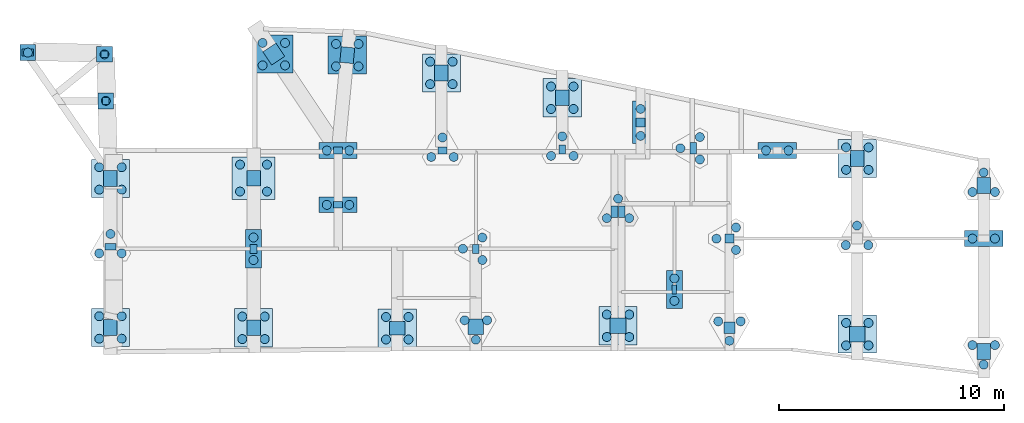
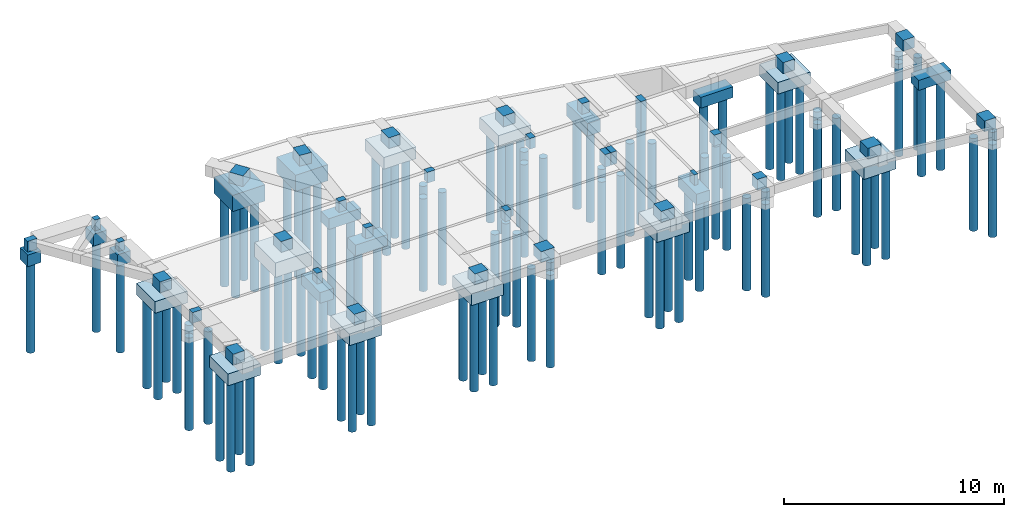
# One storey, part 1 of 5: 101 piles, 32 columns, 22 footings.
"""IFC4 building model written with IfcOpenShell, lengths in centimetres."""

from ifc_helpers import new_model, si_unit, derived_unit, frame, origin, origin_with_axes, origin_2d_with_axis, place, context, project, spatial, rectangle, circle, extrude, faceted_brep, material, element, save


model = new_model("IFC4")

# Units and contexts
model_context = context("Model", 3, precision=1e-05, world=origin_with_axes(), identifier="Body")
ifc_project = project(units=[si_unit("LENGTHUNIT", "METRE", prefix="CENTI"), si_unit("VOLUMEUNIT", "CUBIC_METRE"), si_unit("AREAUNIT", "SQUARE_METRE"), si_unit("POWERUNIT", "WATT"), si_unit("LUMINOUSFLUXUNIT", "LUMEN"), si_unit("ELECTRICCURRENTUNIT", "AMPERE"), si_unit("PRESSUREUNIT", "PASCAL", prefix="KILO"), si_unit("MASSUNIT", "GRAM", prefix="KILO"), si_unit("PLANEANGLEUNIT", "RADIAN"), derived_unit("VOLUMETRICFLOWRATEUNIT", [(si_unit("LENGTHUNIT", "METRE"), 3), (si_unit("TIMEUNIT", "SECOND"), -1)])], contexts=[model_context])

# Site, building, storey
site_placement = place(None, origin_with_axes())
site = spatial("IfcSite", under=ifc_project, at=site_placement)
building_placement = place(site_placement, origin())
building = spatial("IfcBuilding", under=site, at=building_placement)
storey_placement = place(building_placement, origin_with_axes())
storey = spatial("IfcBuildingStorey", under=building, at=storey_placement, Name="PÁTIO", CompositionType="ELEMENT", Elevation=0.0)

# Footings
ifc_material = material(Name="Concreto")
footing_1_placement = place(storey_placement, frame((1120.00955496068, -21.71839427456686, -60.0), z_axis=(0.0, 0.0, 1.0), x_axis=(1.0, 0.0, 0.0)))
element("IfcFooting", 1, at=footing_1_placement, inside=storey, material=ifc_material, Name="P.A1", context=model_context, shape_type="SolidModel", body=[
    faceted_brep([(85.0, 85.0, -90.0), (85.0, -85.0, -90.0), (-85.0, -85.0, -90.0), (-85.0, 85.0, -90.0), (-85.0, 85.0, 0.0), (-85.0, -85.0, 0.0), (85.0, -85.0, 0.0), (85.0, 85.0, 0.0)], [[[0, 1, 2, 3]], [[4, 5, 6, 7]], [[4, 3, 5]], [[3, 2, 5]], [[5, 2, 6]], [[2, 1, 6]], [[6, 1, 7]], [[1, 0, 7]], [[7, 0, 4]], [[0, 3, 4]]]),
])
for number, where, z_axis, x_axis, name in (
    (2, (392.75, -1238.82, -60.0), (0.0, 0.0, 1.0), (1.0, 0.0, 0.0), "P.A10"),
    (3, (1029.7, -1240.32, -60.0), (0.0, 0.0, 1.0), (1.0, 0.0, 0.0), "P.A11"),
):
    element("IfcFooting", number, at=place(storey_placement, frame(where, z_axis=z_axis, x_axis=x_axis)), inside=storey, material=ifc_material, Name=name, context=model_context, shape_type="SolidModel", body=[
        faceted_brep([(85.0, -85.0, -65.0), (-85.0, -85.0, -65.0), (-85.0, 85.0, -65.0), (85.0, 85.0, -65.0), (85.0, 85.0, 0.0), (-85.0, 85.0, 0.0), (-85.0, -85.0, 0.0), (85.0, -85.0, 0.0)], [[[0, 1, 2, 3]], [[4, 5, 6, 7]], [[4, 3, 5]], [[3, 2, 5]], [[5, 2, 6]], [[2, 1, 6]], [[6, 1, 7]], [[1, 0, 7]], [[7, 0, 4]], [[0, 3, 4]]]),
    ])
footing_2_placement = place(storey_placement, frame((1669.6, -1242.19, -60.0), z_axis=(0.0, 0.0, 1.0), x_axis=(1.0, 0.0, 0.0)))
element("IfcFooting", 4, at=footing_2_placement, inside=storey, material=ifc_material, Name="P.A12", context=model_context, shape_type="SolidModel", body=[
    faceted_brep([(85.0, 85.0, -65.0), (85.0, -85.0, -65.0), (-85.0, -85.0, -65.0), (-85.0, 85.0, -65.0), (-85.0, 85.0, 0.0), (-85.0, -85.0, 0.0), (85.0, -85.0, 0.0), (85.0, 85.0, 0.0)], [[[0, 1, 2, 3]], [[4, 5, 6, 7]], [[4, 3, 5]], [[3, 2, 5]], [[5, 2, 6]], [[2, 1, 6]], [[6, 1, 7]], [[1, 0, 7]], [[7, 0, 4]], [[0, 3, 4]]]),
])
footing_3_placement = place(storey_placement, frame((2652.6, -1231.16, -60.0), z_axis=(0.0, 0.0, 1.0), x_axis=(1.0, 0.0, 0.0)))
element("IfcFooting", 5, at=footing_3_placement, inside=storey, material=ifc_material, Name="P.A14", context=model_context, shape_type="SolidModel", body=[
    faceted_brep([(-85.0, 85.0, -65.0), (85.0, 85.0, -65.0), (85.0, -85.0, -65.0), (-85.0, -85.0, -65.0), (-85.0, -85.0, 0.0), (85.0, -85.0, 0.0), (85.0, 85.0, 0.0), (-85.0, 85.0, 0.0)], [[[0, 1, 2, 3]], [[4, 5, 6, 7]], [[4, 3, 5]], [[3, 2, 5]], [[5, 2, 6]], [[2, 1, 6]], [[6, 1, 7]], [[1, 0, 7]], [[7, 0, 4]], [[0, 3, 4]]]),
])
footing_4_placement = place(storey_placement, frame((3717.85, -1268.38, -60.0), z_axis=(0.0, 0.0, 1.0), x_axis=(1.0, 0.0, 0.0)))
element("IfcFooting", 6, at=footing_4_placement, inside=storey, material=ifc_material, Name="P.A16", context=model_context, shape_type="SolidModel", body=[
    faceted_brep([(85.0, -85.0, -65.0), (-85.0, -85.0, -65.0), (-85.0, 85.0, -65.0), (85.0, 85.0, -65.0), (85.0, 85.0, 0.0), (-85.0, 85.0, 0.0), (-85.0, -85.0, 0.0), (85.0, -85.0, 0.0)], [[[0, 1, 2, 3]], [[4, 5, 6, 7]], [[4, 3, 5]], [[3, 2, 5]], [[5, 2, 6]], [[2, 1, 6]], [[6, 1, 7]], [[1, 0, 7]], [[7, 0, 4]], [[0, 3, 4]]]),
])
footing_5_placement = place(storey_placement, frame((1447.0753986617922, -26.188866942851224, -60.0), z_axis=(0.0, 0.0, 1.0), x_axis=(1.0, 0.0, 0.0)))
element("IfcFooting", 7, at=footing_5_placement, inside=storey, material=ifc_material, Name="P.A2", context=model_context, shape_type="SolidModel", body=[
    faceted_brep([(-85.0, 85.0, -90.0), (85.0, 85.0, -90.0), (85.0, -85.0, -90.0), (-85.0, -85.0, -90.0), (-85.0, -85.0, 0.0), (85.0, -85.0, 0.0), (85.0, 85.0, 0.0), (-85.0, 85.0, 0.0)], [[[0, 1, 2, 3]], [[4, 5, 6, 7]], [[4, 3, 5]], [[3, 2, 5]], [[5, 2, 6]], [[2, 1, 6]], [[6, 1, 7]], [[1, 0, 7]], [[7, 0, 4]], [[0, 3, 4]]]),
])
footing_6_placement = place(storey_placement, frame((1866.0, -105.42, -60.0), z_axis=(0.0, 0.0, 1.0), x_axis=(1.0, 0.0, 0.0)))
element("IfcFooting", 8, at=footing_6_placement, inside=storey, material=ifc_material, Name="P.A3", context=model_context, shape_type="SolidModel", body=[
    faceted_brep([(85.0, 85.0, -65.0), (85.0, -85.0, -65.0), (-85.0, -85.0, -65.0), (-85.0, 85.0, -65.0), (-85.0, 85.0, 0.0), (-85.0, -85.0, 0.0), (85.0, -85.0, 0.0), (85.0, 85.0, 0.0)], [[[0, 1, 2, 3]], [[4, 5, 6, 7]], [[4, 3, 5]], [[3, 2, 5]], [[5, 2, 6]], [[2, 1, 6]], [[6, 1, 7]], [[1, 0, 7]], [[7, 0, 4]], [[0, 3, 4]]]),
])
footing_7_placement = place(storey_placement, frame((2404.5, -216.15, -60.0), z_axis=(0.0, 0.0, 1.0), x_axis=(1.0, 0.0, 0.0)))
element("IfcFooting", 9, at=footing_7_placement, inside=storey, material=ifc_material, Name="P.A4", context=model_context, shape_type="SolidModel", body=[
    faceted_brep([(-85.0, 85.0, -65.0), (85.0, 85.0, -65.0), (85.0, -85.0, -65.0), (-85.0, -85.0, -65.0), (-85.0, -85.0, 0.0), (85.0, -85.0, 0.0), (85.0, 85.0, 0.0), (-85.0, 85.0, 0.0)], [[[0, 1, 2, 3]], [[4, 5, 6, 7]], [[4, 3, 5]], [[3, 2, 5]], [[5, 2, 6]], [[2, 1, 6]], [[6, 1, 7]], [[1, 0, 7]], [[7, 0, 4]], [[0, 3, 4]]]),
])
footing_8_placement = place(storey_placement, frame((2753.0, -325.69, -60.0), z_axis=(0.0, 0.0, 1.0), x_axis=(1.0, 0.0, 0.0)))
element("IfcFooting", 10, at=footing_8_placement, inside=storey, material=ifc_material, Name="P.A5", context=model_context, shape_type="SolidModel", body=[
    faceted_brep([(-35.0, 95.0, -70.0), (35.0, 95.0, -70.0), (35.0, -95.0, -70.0), (-35.0, -95.0, -70.0), (-35.0, -95.0, 0.0), (35.0, -95.0, 0.0), (35.0, 95.0, 0.0), (-35.0, 95.0, 0.0)], [[[0, 1, 2, 3]], [[4, 5, 6, 7]], [[4, 3, 5]], [[3, 2, 5]], [[5, 2, 6]], [[2, 1, 6]], [[6, 1, 7]], [[1, 0, 7]], [[7, 0, 4]], [[0, 3, 4]]]),
])
for number, where, z_axis, x_axis, name in (
    (11, (3717.85, -486.9, -60.0), (0.0, 0.0, 1.0), (1.0, 0.0, 0.0), "P.A6"),
    (12, (392.75, -575.3, -60.0), (0.0, 0.0, 1.0), (1.0, 0.0, 0.0), "P.A7"),
):
    element("IfcFooting", number, at=place(storey_placement, frame(where, z_axis=z_axis, x_axis=x_axis)), inside=storey, material=ifc_material, Name=name, context=model_context, shape_type="SolidModel", body=[
        faceted_brep([(-85.0, 85.0, -65.0), (85.0, 85.0, -65.0), (85.0, -85.0, -65.0), (-85.0, -85.0, -65.0), (-85.0, -85.0, 0.0), (85.0, -85.0, 0.0), (85.0, 85.0, 0.0), (-85.0, 85.0, 0.0)], [[[0, 1, 2, 3]], [[4, 5, 6, 7]], [[4, 3, 5]], [[3, 2, 5]], [[5, 2, 6]], [[2, 1, 6]], [[6, 1, 7]], [[1, 0, 7]], [[7, 0, 4]], [[0, 3, 4]]]),
    ])
footing_9_placement = place(storey_placement, frame((1029.7, -573.8, -60.0), z_axis=(0.0, 0.0, 1.0), x_axis=(1.0, 0.0, 0.0)))
element("IfcFooting", 13, at=footing_9_placement, inside=storey, material=ifc_material, Name="P.A8", context=model_context, shape_type="SolidModel", body=[
    faceted_brep([(-95.0, 95.0, -80.0), (95.0, 95.0, -80.0), (95.0, -95.0, -80.0), (-95.0, -95.0, -80.0), (-95.0, -95.0, 0.0), (95.0, -95.0, 0.0), (95.0, 95.0, 0.0), (-95.0, 95.0, 0.0)], [[[0, 1, 2, 3]], [[4, 5, 6, 7]], [[4, 3, 5]], [[3, 2, 5]], [[5, 2, 6]], [[2, 1, 6]], [[6, 1, 7]], [[1, 0, 7]], [[7, 0, 4]], [[0, 3, 4]]]),
])
footing_10_placement = place(storey_placement, frame((25.0, -15.0, -60.0), z_axis=(0.0, 0.0, 1.0), x_axis=(1.0, 0.0, 0.0)))
element("IfcFooting", 14, at=footing_10_placement, inside=storey, material=ifc_material, Name="P.MURO1", context=model_context, shape_type="SolidModel", body=[
    faceted_brep([(35.0, 35.0, -65.0), (35.0, -35.0, -65.0), (-35.0, -35.0, -65.0), (-35.0, 35.0, -65.0), (-35.0, 35.0, 0.0), (-35.0, -35.0, 0.0), (35.0, -35.0, 0.0), (35.0, 35.0, 0.0)], [[[0, 1, 2, 3]], [[4, 5, 6, 7]], [[4, 3, 5]], [[3, 2, 5]], [[5, 2, 6]], [[2, 1, 6]], [[6, 1, 7]], [[1, 0, 7]], [[7, 0, 4]], [[0, 3, 4]]]),
])
footing_11_placement = place(storey_placement, frame((365.95, -22.8, -60.0), z_axis=(0.0, 0.0, 1.0), x_axis=(1.0, 0.0, 0.0)))
element("IfcFooting", 15, at=footing_11_placement, inside=storey, material=ifc_material, Name="P.MURO2", context=model_context, shape_type="SolidModel", body=[
    faceted_brep([(-35.0, 35.0, -65.0), (35.0, 35.0, -65.0), (35.0, -35.0, -65.0), (-35.0, -35.0, -65.0), (-35.0, -35.0, 0.0), (35.0, -35.0, 0.0), (35.0, 35.0, 0.0), (-35.0, 35.0, 0.0)], [[[0, 1, 2, 3]], [[4, 5, 6, 7]], [[4, 3, 5]], [[3, 2, 5]], [[5, 2, 6]], [[2, 1, 6]], [[6, 1, 7]], [[1, 0, 7]], [[7, 0, 4]], [[0, 3, 4]]]),
])
footing_12_placement = place(storey_placement, frame((372.23, -229.98, -50.0), z_axis=(0.0, 0.0, 1.0), x_axis=(1.0, 0.0, 0.0)))
element("IfcFooting", 16, at=footing_12_placement, inside=storey, material=ifc_material, Name="P.MURO5", context=model_context, shape_type="SolidModel", body=[
    faceted_brep([(35.0, -35.0, -65.0), (-35.0, -35.0, -65.0), (-35.0, 35.0, -65.0), (35.0, 35.0, -65.0), (35.0, 35.0, 0.0), (-35.0, 35.0, 0.0), (-35.0, -35.0, 0.0), (35.0, -35.0, 0.0)], [[[0, 1, 2, 3]], [[4, 5, 6, 7]], [[4, 3, 5]], [[3, 2, 5]], [[5, 2, 6]], [[2, 1, 6]], [[6, 1, 7]], [[1, 0, 7]], [[7, 0, 4]], [[0, 3, 4]]]),
])
for number, where, z_axis, x_axis, name in (
    (17, (1406.0, -450.9, -60.0), (0.0, 0.0, 1.0), (1.0, 0.0, 0.0), "P10"),
    (18, (3361.6, -450.9, -70.0), (0.0, 0.0, 1.0), (1.0, 0.0, 0.0), "P15"),
):
    element("IfcFooting", number, at=place(storey_placement, frame(where, z_axis=z_axis, x_axis=x_axis)), inside=storey, material=ifc_material, Name=name, context=model_context, shape_type="SolidModel", body=[
        faceted_brep([(85.0, 35.0, -60.0), (85.0, -35.0, -60.0), (-85.0, -35.0, -60.0), (-85.0, 35.0, -60.0), (-85.0, 35.0, 0.0), (-85.0, -35.0, 0.0), (85.0, -35.0, 0.0), (85.0, 35.0, 0.0)], [[[0, 1, 2, 3]], [[4, 5, 6, 7]], [[4, 3, 5]], [[3, 2, 5]], [[5, 2, 6]], [[2, 1, 6]], [[6, 1, 7]], [[1, 0, 7]], [[7, 0, 4]], [[0, 3, 4]]]),
    ])
footing_13_placement = place(storey_placement, frame((1406.0, -692.9, -60.0), z_axis=(0.0, 0.0, 1.0), x_axis=(1.0, 0.0, 0.0)))
element("IfcFooting", 19, at=footing_13_placement, inside=storey, material=ifc_material, Name="P18", context=model_context, shape_type="SolidModel", body=[
    faceted_brep([(-85.0, -35.0, -60.0), (-85.0, 35.0, -60.0), (85.0, 35.0, -60.0), (85.0, -35.0, -60.0), (85.0, -35.0, 0.0), (85.0, 35.0, 0.0), (-85.0, 35.0, 0.0), (-85.0, -35.0, 0.0)], [[[0, 1, 2, 3]], [[4, 5, 6, 7]], [[4, 3, 5]], [[3, 2, 5]], [[5, 2, 6]], [[2, 1, 6]], [[6, 1, 7]], [[1, 0, 7]], [[7, 0, 4]], [[0, 3, 4]]]),
])
footing_14_placement = place(storey_placement, frame((1029.5, -888.4, -60.0), z_axis=(0.0, 0.0, 1.0), x_axis=(1.0, 0.0, 0.0)))
element("IfcFooting", 20, at=footing_14_placement, inside=storey, material=ifc_material, Name="P22", context=model_context, shape_type="SolidModel", body=[
    faceted_brep([(-34.703081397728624, 85.12165495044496, -60.0), (35.29649213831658, 84.87730935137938, -60.0), (34.70308139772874, -85.12165495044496, -60.0), (-35.296492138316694, -84.87730935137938, -60.0), (-35.296492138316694, -84.87730935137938, 0.0), (34.70308139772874, -85.12165495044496, 0.0), (35.29649213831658, 84.87730935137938, 0.0), (-34.703081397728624, 85.12165495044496, 0.0)], [[[0, 1, 2, 3]], [[4, 5, 6, 7]], [[4, 3, 5]], [[3, 2, 5]], [[5, 2, 6]], [[2, 1, 6]], [[6, 1, 7]], [[1, 0, 7]], [[7, 0, 4]], [[0, 3, 4]]]),
])
footing_15_placement = place(storey_placement, frame((4280.6, -843.1, -60.0), z_axis=(0.0, 0.0, 1.0), x_axis=(1.0, 0.0, 0.0)))
element("IfcFooting", 21, at=footing_15_placement, inside=storey, material=ifc_material, Name="P26", context=model_context, shape_type="SolidModel", body=[
    faceted_brep([(85.0, 35.0, -55.0), (85.0, -35.0, -55.0), (-85.0, -35.0, -55.0), (-85.0, 35.0, -55.0), (-85.0, 35.0, 0.0), (-85.0, -35.0, 0.0), (85.0, -35.0, 0.0), (85.0, 35.0, 0.0)], [[[0, 1, 2, 3]], [[4, 5, 6, 7]], [[4, 3, 5]], [[3, 2, 5]], [[5, 2, 6]], [[2, 1, 6]], [[6, 1, 7]], [[1, 0, 7]], [[7, 0, 4]], [[0, 3, 4]]]),
])
footing_16_placement = place(storey_placement, frame((2903.6, -1070.1, -60.0), z_axis=(0.0, 0.0, 1.0), x_axis=(1.0, 0.0, 0.0)))
element("IfcFooting", 22, at=footing_16_placement, inside=storey, material=ifc_material, Name="P27", context=model_context, shape_type="SolidModel", body=[
    faceted_brep([(35.0, -85.0, -60.0), (-35.0, -85.0, -60.0), (-35.0, 85.0, -60.0), (35.0, 85.0, -60.0), (35.0, 85.0, 0.0), (-35.0, 85.0, 0.0), (-35.0, -85.0, 0.0), (35.0, -85.0, 0.0)], [[[0, 1, 2, 3]], [[4, 5, 6, 7]], [[4, 3, 5]], [[3, 2, 5]], [[5, 2, 6]], [[2, 1, 6]], [[6, 1, 7]], [[1, 0, 7]], [[7, 0, 4]], [[0, 3, 4]]]),
])

# Piles
for number, where, z_axis, x_axis, name in (
    (23, (1070.00955496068, 28.28160572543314, -135.0), (0.0, 0.0, 1.0), (1.0, 0.0, 0.0), "E.A1-1"),
    (24, (1170.00955496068, 28.281605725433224, -135.0), (0.0, 0.0, 1.0), (1.0, 0.0, 0.0), "E.A1-2"),
    (25, (1070.00955496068, -71.71839427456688, -135.0), (0.0, 0.0, 1.0), (1.0, 0.0, 0.0), "E.A1-3"),
    (26, (1170.00955496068, -71.71839427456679, -135.0), (0.0, 0.0, 1.0), (1.0, 0.0, 0.0), "E.A1-4"),
    (27, (342.75, -1188.82, -110.0), (0.0, 0.0, 1.0), (1.0, 0.0, 0.0), "E.A10-1"),
    (28, (442.75, -1188.82, -110.0), (0.0, 0.0, 1.0), (1.0, 0.0, 0.0), "E.A10-2"),
    (29, (342.75, -1288.82, -110.0), (0.0, 0.0, 1.0), (1.0, 0.0, 0.0), "E.A10-3"),
    (30, (442.75, -1288.82, -110.0), (0.0, 0.0, 1.0), (1.0, 0.0, 0.0), "E.A10-4"),
    (31, (979.7, -1190.32, -110.0), (0.0, 0.0, 1.0), (1.0, 0.0, 0.0), "E.A11-1"),
    (32, (1079.7, -1190.32, -110.0), (0.0, 0.0, 1.0), (1.0, 0.0, 0.0), "E.A11-2"),
    (33, (979.7, -1290.32, -110.0), (0.0, 0.0, 1.0), (1.0, 0.0, 0.0), "E.A11-3"),
    (34, (1079.7, -1290.32, -110.0), (0.0, 0.0, 1.0), (1.0, 0.0, 0.0), "E.A11-4"),
    (35, (1619.6, -1192.19, -110.0), (0.0, 0.0, 1.0), (1.0, 0.0, 0.0), "E.A12-1"),
    (36, (1719.6, -1192.19, -110.0), (0.0, 0.0, 1.0), (1.0, 0.0, 0.0), "E.A12-2"),
    (37, (1619.6, -1292.19, -110.0), (0.0, 0.0, 1.0), (1.0, 0.0, 0.0), "E.A12-3"),
    (38, (1719.6, -1292.19, -110.0), (0.0, 0.0, 1.0), (1.0, 0.0, 0.0), "E.A12-4"),
    (39, (1969.6, -1206.8124865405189, -115.0), (0.0, 0.0, 1.0), (1.0, 0.0, 0.0), "E.A13-1"),
    (40, (2069.6, -1206.8124865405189, -115.0), (0.0, 0.0, 1.0), (1.0, 0.0, 0.0), "E.A13-2"),
    (41, (2019.6, -1293.4150269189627, -115.0), (0.0, 0.0, 1.0), (1.0, 0.0, 0.0), "E.A13-3"),
    (42, (2602.6, -1181.16, -110.0), (0.0, 0.0, 1.0), (1.0, 0.0, 0.0), "E.A14-1"),
    (43, (2702.6, -1181.16, -110.0), (0.0, 0.0, 1.0), (1.0, 0.0, 0.0), "E.A14-2"),
    (44, (2602.6, -1281.16, -110.0), (0.0, 0.0, 1.0), (1.0, 0.0, 0.0), "E.A14-3"),
    (45, (2702.6, -1281.16, -110.0), (0.0, 0.0, 1.0), (1.0, 0.0, 0.0), "E.A14-4"),
    (46, (3098.6, -1211.5024865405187, -115.0), (0.0, 0.0, 1.0), (1.0, 0.0, 0.0), "E.A15-1"),
    (47, (3198.6, -1211.5024865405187, -115.0), (0.0, 0.0, 1.0), (1.0, 0.0, 0.0), "E.A15-2"),
    (48, (3148.6, -1298.1050269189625, -115.0), (0.0, 0.0, 1.0), (1.0, 0.0, 0.0), "E.A15-3"),
    (49, (3667.85, -1218.38, -110.0), (0.0, 0.0, 1.0), (1.0, 0.0, 0.0), "E.A16-1"),
    (50, (3767.85, -1218.38, -110.0), (0.0, 0.0, 1.0), (1.0, 0.0, 0.0), "E.A16-2"),
    (51, (3667.85, -1318.38, -110.0), (0.0, 0.0, 1.0), (1.0, 0.0, 0.0), "E.A16-3"),
    (52, (3767.85, -1318.38, -110.0), (0.0, 0.0, 1.0), (1.0, 0.0, 0.0), "E.A16-4"),
    (53, (4230.6, -1317.3524865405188, -115.0), (0.0, 0.0, 1.0), (1.0, 0.0, 0.0), "E.A17-1"),
    (54, (4330.6, -1317.3524865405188, -115.0), (0.0, 0.0, 1.0), (1.0, 0.0, 0.0), "E.A17-2"),
    (55, (4280.6, -1403.9550269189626, -115.0), (0.0, 0.0, 1.0), (1.0, 0.0, 0.0), "E.A17-3"),
    (56, (1397.0753986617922, 23.811133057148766, -135.0), (0.0, 0.0, 1.0), (1.0, 0.0, 0.0), "E.A2-1"),
    (57, (1497.0753986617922, 23.81113305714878, -135.0), (0.0, 0.0, 1.0), (1.0, 0.0, 0.0), "E.A2-2"),
    (58, (1397.0753986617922, -76.18886694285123, -135.0), (0.0, 0.0, 1.0), (1.0, 0.0, 0.0), "E.A2-3"),
    (59, (1497.0753986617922, -76.18886694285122, -135.0), (0.0, 0.0, 1.0), (1.0, 0.0, 0.0), "E.A2-4"),
    (60, (1816.0, -55.42, -110.0), (0.0, 0.0, 1.0), (1.0, 0.0, 0.0), "E.A3-1"),
    (61, (1916.0, -55.42, -110.0), (0.0, 0.0, 1.0), (1.0, 0.0, 0.0), "E.A3-2"),
    (62, (1816.0, -155.42, -110.0), (0.0, 0.0, 1.0), (1.0, 0.0, 0.0), "E.A3-3"),
    (63, (1916.0, -155.42, -110.0), (0.0, 0.0, 1.0), (1.0, 0.0, 0.0), "E.A3-4"),
    (64, (2354.5, -166.15, -110.0), (0.0, 0.0, 1.0), (1.0, 0.0, 0.0), "E.A4-1"),
    (65, (2454.5, -166.15, -110.0), (0.0, 0.0, 1.0), (1.0, 0.0, 0.0), "E.A4-2"),
    (66, (2354.5, -266.15, -110.0), (0.0, 0.0, 1.0), (1.0, 0.0, 0.0), "E.A4-3"),
    (67, (2454.5, -266.15, -110.0), (0.0, 0.0, 1.0), (1.0, 0.0, 0.0), "E.A4-4"),
    (68, (2753.0, -265.69, -115.0), (0.0, 0.0, 1.0), (1.0, 0.0, 0.0), "E.A5-1"),
    (69, (2753.0, -385.69, -115.0), (0.0, 0.0, 1.0), (1.0, 0.0, 0.0), "E.A5-2"),
    (70, (3667.85, -436.9, -110.0), (0.0, 0.0, 1.0), (1.0, 0.0, 0.0), "E.A6-1"),
    (71, (3767.85, -436.9, -110.0), (0.0, 0.0, 1.0), (1.0, 0.0, 0.0), "E.A6-2"),
    (72, (3667.85, -536.9, -110.0), (0.0, 0.0, 1.0), (1.0, 0.0, 0.0), "E.A6-3"),
    (73, (3767.85, -536.9, -110.0), (0.0, 0.0, 1.0), (1.0, 0.0, 0.0), "E.A6-4"),
    (74, (342.75, -525.3, -110.0), (0.0, 0.0, 1.0), (1.0, 0.0, 0.0), "E.A7-1"),
    (75, (442.75, -525.3, -110.0), (0.0, 0.0, 1.0), (1.0, 0.0, 0.0), "E.A7-2"),
    (76, (342.75, -625.3, -110.0), (0.0, 0.0, 1.0), (1.0, 0.0, 0.0), "E.A7-3"),
    (77, (442.75, -625.3, -110.0), (0.0, 0.0, 1.0), (1.0, 0.0, 0.0), "E.A7-4"),
    (78, (969.7, -513.8, -125.0), (0.0, 0.0, 1.0), (1.0, 0.0, 0.0), "E.A8-1"),
    (79, (1089.7, -513.8, -125.0), (0.0, 0.0, 1.0), (1.0, 0.0, 0.0), "E.A8-2"),
    (80, (969.7, -633.8, -125.0), (0.0, 0.0, 1.0), (1.0, 0.0, 0.0), "E.A8-3"),
    (81, (1089.7, -633.8, -125.0), (0.0, 0.0, 1.0), (1.0, 0.0, 0.0), "E.A8-4"),
    (82, (4280.6, -548.8449730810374, -115.0), (0.0, 0.0, 1.0), (1.0, 0.0, 0.0), "E.A9-1"),
    (83, (4230.6, -635.4475134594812, -115.0), (0.0, 0.0, 1.0), (1.0, 0.0, 0.0), "E.A9-2"),
    (84, (4330.6, -635.4475134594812, -115.0), (0.0, 0.0, 1.0), (1.0, 0.0, 0.0), "E.A9-3"),
    (85, (25.0, -15.0, -110.0), (0.0, 0.0, 1.0), (1.0, 0.0, 0.0), "E.MURO1-1"),
    (86, (365.95, -22.8, -110.0), (0.0, 0.0, 1.0), (1.0, 0.0, 0.0), "E.MURO2-1"),
    (87, (372.23, -229.98, -100.0), (0.0, 0.0, 1.0), (1.0, 0.0, 0.0), "E.MURO5-1"),
):
    element("IfcPile", number, at=place(storey_placement, frame(where, z_axis=z_axis, x_axis=x_axis)), inside=storey, material=ifc_material, Name=name, context=model_context, shape_type="SweptSolid", body=[
        extrude(circle(Radius=20.0, at=origin_2d_with_axis()), frame((0.0, 0.0, -515.0), z_axis=(0.0, 0.0, 1.0), x_axis=(1.0, 0.0, 0.0)), (0.0, 0.0, 1.0), 515.0),
    ])
for number, where, z_axis, x_axis, name in (
    (88, (1356.0, -450.9, -105.0), (0.0, 0.0, 1.0), (1.0, 0.0, 0.0), "E10-1"),
    (89, (1456.0, -450.9, -105.0), (0.0, 0.0, 1.0), (1.0, 0.0, 0.0), "E10-2"),
    (90, (1871.0, -393.1649730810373, -115.0), (0.0, 0.0, 1.0), (1.0, 0.0, 0.0), "E11-1"),
    (91, (1821.0, -479.7675134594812, -115.0), (0.0, 0.0, 1.0), (1.0, 0.0, 0.0), "E11-2"),
    (92, (1921.0, -479.76751345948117, -115.0), (0.0, 0.0, 1.0), (1.0, 0.0, 0.0), "E11-3"),
    (93, (2404.5, -388.1649730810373, -115.0), (0.0, 0.0, 1.0), (1.0, 0.0, 0.0), "E12-1"),
    (94, (2354.5, -474.7675134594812, -115.0), (0.0, 0.0, 1.0), (1.0, 0.0, 0.0), "E12-2"),
    (95, (2454.5, -474.76751345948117, -115.0), (0.0, 0.0, 1.0), (1.0, 0.0, 0.0), "E12-3"),
    (96, (3016.867513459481, -390.9, -220.0), (0.0, 0.0, 1.0), (1.0, 0.0, 0.0), "E14-1"),
    (97, (2930.264973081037, -440.9, -220.0), (0.0, 0.0, 1.0), (1.0, 0.0, 0.0), "E14-2"),
    (98, (3016.8675134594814, -490.9, -220.0), (0.0, 0.0, 1.0), (1.0, 0.0, 0.0), "E14-3"),
    (99, (3311.6, -450.9, -115.0), (0.0, 0.0, 1.0), (1.0, 0.0, 0.0), "E15-1"),
    (100, (3411.6, -450.9, -115.0), (0.0, 0.0, 1.0), (1.0, 0.0, 0.0), "E15-2"),
    (101, (1356.0, -692.9, -105.0), (0.0, 0.0, 1.0), (1.0, 0.0, 0.0), "E18-1"),
    (102, (1456.0, -692.9, -105.0), (0.0, 0.0, 1.0), (1.0, 0.0, 0.0), "E18-2"),
    (103, (2652.6, -665.3649730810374, -130.0), (0.0, 0.0, 1.0), (1.0, 0.0, 0.0), "E19-1"),
    (104, (2602.6, -751.9675134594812, -130.0), (0.0, 0.0, 1.0), (1.0, 0.0, 0.0), "E19-2"),
    (105, (2702.6, -751.9675134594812, -130.0), (0.0, 0.0, 1.0), (1.0, 0.0, 0.0), "E19-3"),
    (106, (392.75, -822.1649730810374, -110.0), (0.0, 0.0, 1.0), (1.0, 0.0, 0.0), "E21-1"),
    (107, (342.75, -908.7675134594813, -110.0), (0.0, 0.0, 1.0), (1.0, 0.0, 0.0), "E21-2"),
    (108, (442.75, -908.7675134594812, -110.0), (0.0, 0.0, 1.0), (1.0, 0.0, 0.0), "E21-3"),
    (109, (1029.6745325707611, -838.4003046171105, -105.0), (0.0, 0.0, 1.0), (1.0, 0.0, 0.0), "E22-1"),
    (110, (1029.3254674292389, -938.3996953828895, -105.0), (0.0, 0.0, 1.0), (1.0, 0.0, 0.0), "E22-2"),
    (111, (2048.467513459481, -838.4, -115.0), (0.0, 0.0, 1.0), (1.0, 0.0, 0.0), "E23-1"),
    (112, (1961.8649730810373, -888.4, -115.0), (0.0, 0.0, 1.0), (1.0, 0.0, 0.0), "E23-2"),
    (113, (2048.4675134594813, -938.4, -115.0), (0.0, 0.0, 1.0), (1.0, 0.0, 0.0), "E23-3"),
    (114, (3177.467513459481, -793.6, -110.0), (0.0, 0.0, 1.0), (1.0, 0.0, 0.0), "E24-1"),
    (115, (3090.8649730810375, -843.6, -110.0), (0.0, 0.0, 1.0), (1.0, 0.0, 0.0), "E24-2"),
    (116, (3177.4675134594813, -893.6, -110.0), (0.0, 0.0, 1.0), (1.0, 0.0, 0.0), "E24-3"),
    (117, (3716.6, -785.3649730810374, -110.0), (0.0, 0.0, 1.0), (1.0, 0.0, 0.0), "E25-1"),
    (118, (3666.6, -871.9675134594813, -110.0), (0.0, 0.0, 1.0), (1.0, 0.0, 0.0), "E25-2"),
    (119, (3766.6, -871.9675134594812, -110.0), (0.0, 0.0, 1.0), (1.0, 0.0, 0.0), "E25-3"),
    (120, (4230.6, -843.1, -100.0), (0.0, 0.0, 1.0), (1.0, 0.0, 0.0), "E26-1"),
    (121, (4330.6, -843.1, -100.0), (0.0, 0.0, 1.0), (1.0, 0.0, 0.0), "E26-2"),
    (122, (2903.6, -1020.1, -105.0), (0.0, 0.0, 1.0), (1.0, 0.0, 0.0), "E27-1"),
    (123, (2903.6, -1120.1, -105.0), (0.0, 0.0, 1.0), (1.0, 0.0, 0.0), "E27-2"),
):
    element("IfcPile", number, at=place(storey_placement, frame(where, z_axis=z_axis, x_axis=x_axis)), inside=storey, material=ifc_material, Name=name, context=model_context, shape_type="SweptSolid", body=[
        extrude(circle(Radius=20.0, at=origin_2d_with_axis()), frame((0.0, 0.0, -515.0), z_axis=(0.0, 0.0, 1.0), x_axis=(1.0, 0.0, 0.0)), (0.0, 0.0, 1.0), 515.0),
    ])

# Columns
column_1_placement = place(storey_placement, frame((1120.00955496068, -21.71839427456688, 0.0), z_axis=(0.0, 0.0, 1.0), x_axis=(1.0, 0.0, 0.0)))
element("IfcColumn", 124, at=column_1_placement, inside=storey, material=ifc_material, Name="P.A1", context=model_context, shape_type="SolidModel", body=[
    extrude(rectangle(XDim=70.0, YDim=70.0, at=origin_2d_with_axis()), frame((0.0, 0.0, -60.0), z_axis=(0.0, 0.0, 1.0), x_axis=(0.831954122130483, 0.554844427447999, 0.0)), (0.0, 0.0, 1.0), 60.0),
])
for number, where, z_axis, x_axis, name in (
    (125, (392.75, -1238.82, 0.0), (0.0, 0.0, 1.0), (1.0, 0.0, 0.0), "P.A10"),
    (126, (1029.7, -1240.32, 0.0), (0.0, 0.0, 1.0), (1.0, 0.0, 0.0), "P.A11"),
):
    element("IfcColumn", number, at=place(storey_placement, frame(where, z_axis=z_axis, x_axis=x_axis)), inside=storey, material=ifc_material, Name=name, context=model_context, shape_type="SolidModel", body=[
        extrude(rectangle(XDim=60.0, YDim=70.0, at=origin_2d_with_axis()), frame((0.0, 0.0, -60.0), z_axis=(0.0, 0.0, 1.0), x_axis=(-1.0, 0.0, 0.0)), (0.0, 0.0, 1.0), 60.0),
    ])
column_2_placement = place(storey_placement, frame((1669.6, -1242.19, 0.0), z_axis=(0.0, 0.0, 1.0), x_axis=(1.0, 0.0, 0.0)))
element("IfcColumn", 127, at=column_2_placement, inside=storey, material=ifc_material, Name="P.A12", context=model_context, shape_type="SolidModel", body=[
    extrude(rectangle(XDim=60.0, YDim=70.0, at=origin_2d_with_axis()), frame((0.0, 0.0, -60.0), z_axis=(0.0, 0.0, 1.0), x_axis=(0.0, -1.0, 0.0)), (0.0, 0.0, 1.0), 60.0),
])
for number, where, z_axis, x_axis, name in (
    (128, (2019.6, -1235.68, 0.0), (0.0, 0.0, 1.0), (1.0, 0.0, 0.0), "P.A13"),
    (129, (2652.6, -1231.16, 0.0), (0.0, 0.0, 1.0), (1.0, 0.0, 0.0), "P.A14"),
):
    element("IfcColumn", number, at=place(storey_placement, frame(where, z_axis=z_axis, x_axis=x_axis)), inside=storey, material=ifc_material, Name=name, context=model_context, shape_type="SolidModel", body=[
        extrude(rectangle(XDim=70.0, YDim=70.0, at=origin_2d_with_axis()), frame((0.0, 0.0, -60.0), z_axis=(0.0, 0.0, 1.0), x_axis=(0.0, 1.0, 0.0)), (0.0, 0.0, 1.0), 60.0),
    ])
column_3_placement = place(storey_placement, frame((3148.6, -1240.37, 0.0), z_axis=(0.0, 0.0, 1.0), x_axis=(1.0, 0.0, 0.0)))
element("IfcColumn", 130, at=column_3_placement, inside=storey, material=ifc_material, Name="P.A15", context=model_context, shape_type="SolidModel", body=[
    extrude(rectangle(XDim=50.0, YDim=50.0, at=origin_2d_with_axis()), frame((0.0, 0.0, -60.0), z_axis=(0.0, 0.0, 1.0), x_axis=(0.0, 1.0, 0.0)), (0.0, 0.0, 1.0), 60.0),
])
column_4_placement = place(storey_placement, frame((3717.85, -1268.38, 0.0), z_axis=(0.0, 0.0, 1.0), x_axis=(1.0, 0.0, 0.0)))
element("IfcColumn", 131, at=column_4_placement, inside=storey, material=ifc_material, Name="P.A16", context=model_context, shape_type="SolidModel", body=[
    extrude(rectangle(XDim=70.0, YDim=70.0, at=origin_2d_with_axis()), frame((0.0, 0.0, -60.0), z_axis=(0.0, 0.0, 1.0), x_axis=(-1.0, 0.0, 0.0)), (0.0, 0.0, 1.0), 60.0),
])
column_5_placement = place(storey_placement, frame((4280.6, -1346.22, 0.0), z_axis=(0.0, 0.0, 1.0), x_axis=(1.0, 0.0, 0.0)))
element("IfcColumn", 132, at=column_5_placement, inside=storey, material=ifc_material, Name="P.A17", context=model_context, shape_type="SolidModel", body=[
    extrude(rectangle(XDim=60.0, YDim=70.0, at=origin_2d_with_axis()), frame((0.0, 0.0, -60.0), z_axis=(0.0, 0.0, 1.0), x_axis=(-1.0, 0.0, 0.0)), (0.0, 0.0, 1.0), 60.0),
])
column_6_placement = place(storey_placement, frame((1447.0753986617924, -26.18886694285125, 0.0), z_axis=(0.0, 0.0, 1.0), x_axis=(1.0, 0.0, 0.0)))
element("IfcColumn", 133, at=column_6_placement, inside=storey, material=ifc_material, Name="P.A2", context=model_context, shape_type="SolidModel", body=[
    extrude(rectangle(XDim=60.0, YDim=70.0, at=origin_2d_with_axis()), frame((0.0, 0.0, -60.0), z_axis=(0.0, 0.0, 1.0), x_axis=(0.995396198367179, -0.095845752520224, 0.0)), (0.0, 0.0, 1.0), 60.0),
])
for number, where, z_axis, x_axis, name in (
    (134, (1866.0, -105.42, 0.0), (0.0, 0.0, 1.0), (1.0, 0.0, 0.0), "P.A3"),
    (135, (2404.5, -216.15, 0.0), (0.0, 0.0, 1.0), (1.0, 0.0, 0.0), "P.A4"),
):
    element("IfcColumn", number, at=place(storey_placement, frame(where, z_axis=z_axis, x_axis=x_axis)), inside=storey, material=ifc_material, Name=name, context=model_context, shape_type="SolidModel", body=[
        extrude(rectangle(XDim=60.0, YDim=70.0, at=origin_2d_with_axis()), frame((0.0, 0.0, -60.0), z_axis=(0.0, 0.0, 1.0), x_axis=(1.0, 0.0, 0.0)), (0.0, 0.0, 1.0), 60.0),
    ])
column_7_placement = place(storey_placement, frame((2753.0, -325.69, 0.0), z_axis=(0.0, 0.0, 1.0), x_axis=(1.0, 0.0, 0.0)))
element("IfcColumn", 136, at=column_7_placement, inside=storey, material=ifc_material, Name="P.A5", context=model_context, shape_type="SolidModel", body=[
    extrude(rectangle(XDim=40.0, YDim=40.0, at=origin_2d_with_axis()), frame((0.0, 0.0, -60.0), z_axis=(0.0, 0.0, 1.0), x_axis=(1.0, 0.0, 0.0)), (0.0, 0.0, 1.0), 60.0),
])
for number, where, z_axis, x_axis, name in (
    (137, (3717.85, -486.9, 0.0), (0.0, 0.0, 1.0), (1.0, 0.0, 0.0), "P.A6"),
    (138, (392.75, -575.3, 0.0), (0.0, 0.0, 1.0), (1.0, 0.0, 0.0), "P.A7"),
    (139, (1029.7, -573.8, 0.0), (0.0, 0.0, 1.0), (1.0, 0.0, 0.0), "P.A8"),
    (140, (4280.6, -606.58, 0.0), (0.0, 0.0, 1.0), (1.0, 0.0, 0.0), "P.A9"),
):
    element("IfcColumn", number, at=place(storey_placement, frame(where, z_axis=z_axis, x_axis=x_axis)), inside=storey, material=ifc_material, Name=name, context=model_context, shape_type="SolidModel", body=[
        extrude(rectangle(XDim=60.0, YDim=70.0, at=origin_2d_with_axis()), frame((0.0, 0.0, -60.0), z_axis=(0.0, 0.0, 1.0), x_axis=(1.0, 0.0, 0.0)), (0.0, 0.0, 1.0), 60.0),
    ])
column_8_placement = place(storey_placement, frame((25.0, -15.0, 0.0), z_axis=(0.0, 0.0, 1.0), x_axis=(1.0, 0.0, 0.0)))
element("IfcColumn", 141, at=column_8_placement, inside=storey, material=ifc_material, Name="P.MURO1", context=model_context, shape_type="SolidModel", body=[
    extrude(rectangle(XDim=30.0, YDim=50.0, at=origin_2d_with_axis()), frame((0.0, 0.0, -60.0), z_axis=(0.0, 0.0, 1.0), x_axis=(0.0, -1.0, 0.0)), (0.0, 0.0, 1.0), 60.0),
])
column_9_placement = place(storey_placement, frame((365.95, -22.8, 0.0), z_axis=(0.0, 0.0, 1.0), x_axis=(1.0, 0.0, 0.0)))
element("IfcColumn", 142, at=column_9_placement, inside=storey, material=ifc_material, Name="P.MURO2", context=model_context, shape_type="SolidModel", body=[
    extrude(rectangle(XDim=30.0, YDim=30.0, at=origin_2d_with_axis()), frame((0.0, 0.0, -60.0), z_axis=(0.0, 0.0, 1.0), x_axis=(1.0, 0.0, 0.0)), (0.0, 0.0, 1.0), 60.0),
])
column_10_placement = place(storey_placement, frame((372.23, -229.98, 0.0), z_axis=(0.0, 0.0, 1.0), x_axis=(1.0, 0.0, 0.0)))
element("IfcColumn", 143, at=column_10_placement, inside=storey, material=ifc_material, Name="P.MURO5", context=model_context, shape_type="SolidModel", body=[
    extrude(rectangle(XDim=30.0, YDim=30.0, at=origin_2d_with_axis()), frame((0.0, 0.0, -50.0), z_axis=(0.0, 0.0, 1.0), x_axis=(-1.0, 0.0, 0.0)), (0.0, 0.0, 1.0), 50.0),
])
for number, where, z_axis, x_axis, name in (
    (144, (1406.0, -450.9, 0.0), (0.0, 0.0, 1.0), (1.0, 0.0, 0.0), "P10"),
    (145, (1871.0, -450.9, 0.0), (0.0, 0.0, 1.0), (1.0, 0.0, 0.0), "P11"),
):
    element("IfcColumn", number, at=place(storey_placement, frame(where, z_axis=z_axis, x_axis=x_axis)), inside=storey, material=ifc_material, Name=name, context=model_context, shape_type="SolidModel", body=[
        extrude(rectangle(XDim=30.0, YDim=40.0, at=origin_2d_with_axis()), frame((0.0, 0.0, -60.0), z_axis=(0.0, 0.0, 1.0), x_axis=(0.0, -1.0, 0.0)), (0.0, 0.0, 1.0), 60.0),
    ])
column_11_placement = place(storey_placement, frame((2404.5, -445.9, 0.0), z_axis=(0.0, 0.0, 1.0), x_axis=(1.0, 0.0, 0.0)))
element("IfcColumn", 146, at=column_11_placement, inside=storey, material=ifc_material, Name="P12", context=model_context, shape_type="SolidModel", body=[
    extrude(rectangle(XDim=30.0, YDim=40.0, at=origin_2d_with_axis()), frame((0.0, 0.0, -60.0), z_axis=(0.0, 0.0, 1.0), x_axis=(1.0, 0.0, 0.0)), (0.0, 0.0, 1.0), 60.0),
])
column_12_placement = place(storey_placement, frame((2988.0, -440.9, 0.0), z_axis=(0.0, 0.0, 1.0), x_axis=(1.0, 0.0, 0.0)))
element("IfcColumn", 147, at=column_12_placement, inside=storey, material=ifc_material, Name="P14", context=model_context, shape_type="SolidModel", body=[
    extrude(rectangle(XDim=30.0, YDim=50.0, at=origin_2d_with_axis()), frame((0.0, 0.0, -170.0), z_axis=(0.0, 0.0, 1.0), x_axis=(1.0, 0.0, 0.0)), (0.0, 0.0, 1.0), 170.0),
])
column_13_placement = place(storey_placement, frame((1406.0, -692.9, 0.0), z_axis=(0.0, 0.0, 1.0), x_axis=(1.0, 0.0, 0.0)))
element("IfcColumn", 148, at=column_13_placement, inside=storey, material=ifc_material, Name="P18", context=model_context, shape_type="SolidModel", body=[
    extrude(rectangle(XDim=30.0, YDim=40.0, at=origin_2d_with_axis()), frame((0.0, 0.0, -60.0), z_axis=(0.0, 0.0, 1.0), x_axis=(0.0, 1.0, 0.0)), (0.0, 0.0, 1.0), 60.0),
])
column_14_placement = place(storey_placement, frame((2636.6, -723.1, 0.0), z_axis=(0.0, 0.0, 1.0), x_axis=(1.0, 0.0, 0.0)))
element("IfcColumn", 149, at=column_14_placement, inside=storey, material=ifc_material, Name="P19", context=model_context, shape_type="SolidModel", body=[
    extrude(rectangle(XDim=30.0, YDim=50.0, at=origin_2d_with_axis()), frame((0.0, 0.0, -70.0), z_axis=(0.0, 0.0, 1.0), x_axis=(1.0, 0.0, 0.0)), (0.0, 0.0, 1.0), 70.0),
])
column_15_placement = place(storey_placement, frame((2668.6, -723.1, 0.0), z_axis=(0.0, 0.0, 1.0), x_axis=(1.0, 0.0, 0.0)))
element("IfcColumn", 150, at=column_15_placement, inside=storey, material=ifc_material, Name="P20", context=model_context, shape_type="SolidModel", body=[
    extrude(rectangle(XDim=30.0, YDim=50.0, at=origin_2d_with_axis()), frame((0.0, 0.0, -70.0), z_axis=(0.0, 0.0, 1.0), x_axis=(-1.0, 0.0, 0.0)), (0.0, 0.0, 1.0), 70.0),
])
column_16_placement = place(storey_placement, frame((392.75, -879.9, 0.0), z_axis=(0.0, 0.0, 1.0), x_axis=(1.0, 0.0, 0.0)))
element("IfcColumn", 151, at=column_16_placement, inside=storey, material=ifc_material, Name="P21", context=model_context, shape_type="SolidModel", body=[
    extrude(rectangle(XDim=30.0, YDim=50.0, at=origin_2d_with_axis()), frame((0.0, 0.0, -60.0), z_axis=(0.0, 0.0, 1.0), x_axis=(0.0, -1.0, 0.0)), (0.0, 0.0, 1.0), 60.0),
])
column_17_placement = place(storey_placement, frame((1029.5, -888.4, 0.0), z_axis=(0.0, 0.0, 1.0), x_axis=(1.0, 0.0, 0.0)))
element("IfcColumn", 152, at=column_17_placement, inside=storey, material=ifc_material, Name="P22", context=model_context, shape_type="SolidModel", body=[
    extrude(rectangle(XDim=30.0, YDim=40.0, at=origin_2d_with_axis()), frame((0.0, 0.0, -60.0), z_axis=(0.0, 0.0, 1.0), x_axis=(1.0, -0.003490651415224, 0.0)), (0.0, 0.0, 1.0), 60.0),
])
column_18_placement = place(storey_placement, frame((2019.6, -888.4, 0.0), z_axis=(0.0, 0.0, 1.0), x_axis=(1.0, 0.0, 0.0)))
element("IfcColumn", 153, at=column_18_placement, inside=storey, material=ifc_material, Name="P23", context=model_context, shape_type="SolidModel", body=[
    extrude(rectangle(XDim=30.0, YDim=40.0, at=origin_2d_with_axis()), frame((0.0, 0.0, -60.0), z_axis=(0.0, 0.0, 1.0), x_axis=(1.0, 0.0, 0.0)), (0.0, 0.0, 1.0), 60.0),
])
column_19_placement = place(storey_placement, frame((3148.6, -843.6, 0.0), z_axis=(0.0, 0.0, 1.0), x_axis=(1.0, 0.0, 0.0)))
element("IfcColumn", 154, at=column_19_placement, inside=storey, material=ifc_material, Name="P24", context=model_context, shape_type="SolidModel", body=[
    extrude(rectangle(XDim=40.0, YDim=40.0, at=origin_2d_with_axis()), frame((0.0, 0.0, -60.0), z_axis=(0.0, 0.0, 1.0), x_axis=(1.0, 0.0, 0.0)), (0.0, 0.0, 1.0), 60.0),
])
column_20_placement = place(storey_placement, frame((2903.6, -1070.1, 0.0), z_axis=(0.0, 0.0, 1.0), x_axis=(1.0, 0.0, 0.0)))
element("IfcColumn", 155, at=column_20_placement, inside=storey, material=ifc_material, Name="P27", context=model_context, shape_type="SolidModel", body=[
    extrude(rectangle(XDim=20.0, YDim=40.0, at=origin_2d_with_axis()), frame((0.0, 0.0, -60.0), z_axis=(0.0, 0.0, 1.0), x_axis=(-1.0, 0.0, 0.0)), (0.0, 0.0, 1.0), 60.0),
])

save(model, "model.ifc")
